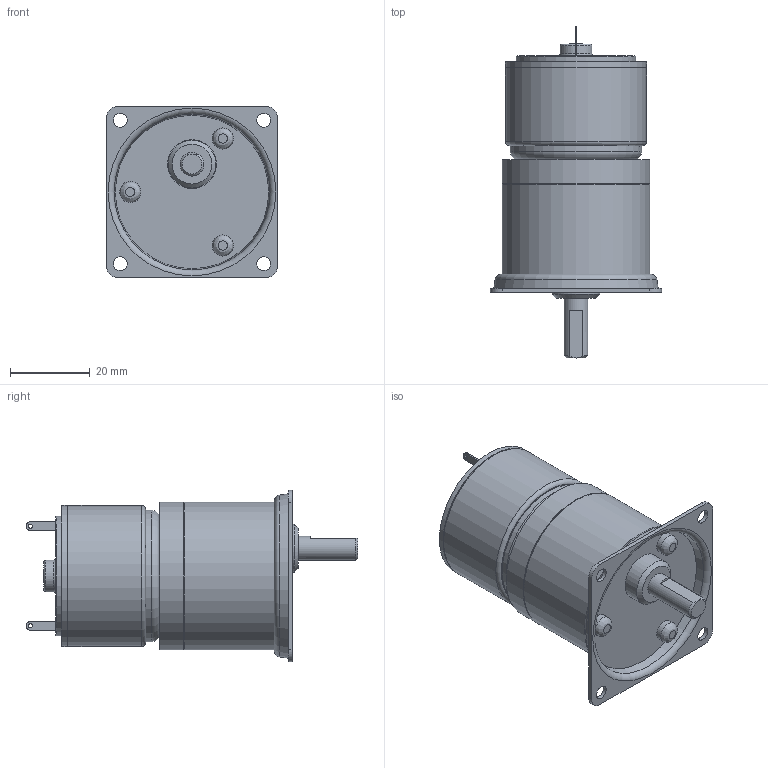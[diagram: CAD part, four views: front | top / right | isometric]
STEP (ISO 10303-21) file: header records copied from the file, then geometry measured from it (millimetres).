
FILE_DESCRIPTION((''),'2;1');
FILE_NAME('C:\Documents and Settings\SSEGAWA\デスクトップ\TP-3526G-PHM-4.STP','2013-07-09T17:43:55',('SSEGAWA'),(''),'Autodesk Inventor 2010','Autodesk Inventor 2010','');
FILE_SCHEMA(('CONFIG_CONTROL_DESIGN'));
Length unit declared in the file: millimetre
Products named in the file (5): tp_3526g_phm_4; phm_4; hm_4; □43; tp_3526g
Assembly tree (4 placements, depth 3):
  tp_3526g_phm_4
    phm_4
      hm_4
      □43
    tp_3526g
Bounding box: 43 x 83.3 x 43 mm (x, y, z)
Volume: 58934.3 mm3; surface area: 15578.7 mm2
Topology: 3 solids, 3 shells, 105 faces, 225 edges, 148 vertices
Faces by surface type: plane 40, cylinder 30, bspline 24, torus 6, cone 5
Full cylindrical faces by diameter (mm): 2 x1, 2.4 x1, 5 x2, 5.3 x3, 6 x1, 8 x1, 10 x1, 12 x1, 12.2 x1, 30 x1, 33 x1, 35 x1, 35.4 x2, 36.6 x1, 37 x2
Entity records: 3045 total; most frequent: CARTESIAN_POINT 963, DIRECTION 431, ORIENTED_EDGE 298, EDGE_LOOP 195, AXIS2_PLACEMENT_3D 194, EDGE_CURVE 149, VERTEX_POINT 126, FACE_OUTER_BOUND 105
